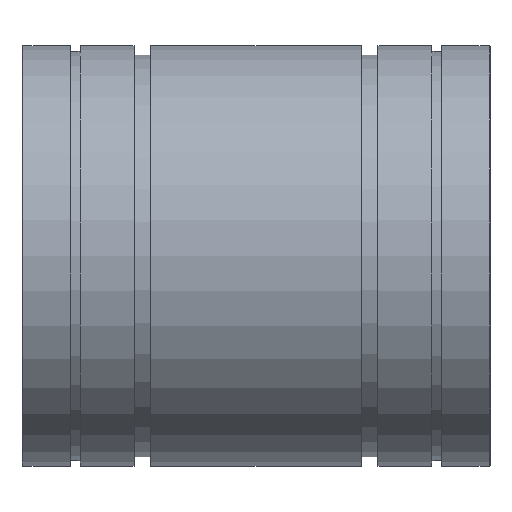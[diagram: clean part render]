
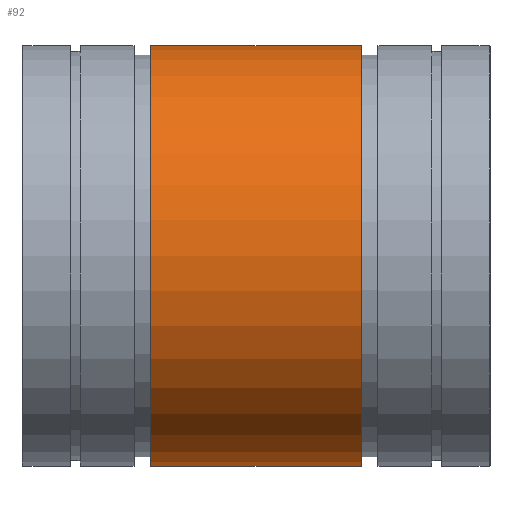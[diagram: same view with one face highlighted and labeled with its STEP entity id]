
A CAD part, top view. The second image highlights one B-rep face of the part: STEP entity #92.
In plain terms, the highlighted cylindrical face has radius 90 mm (diameter 180 mm), a partial arc.
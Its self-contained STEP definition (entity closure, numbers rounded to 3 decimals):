
#92=ADVANCED_FACE('',(#136),#137,.T.);
#136=FACE_OUTER_BOUND('',#188,.T.);
#137=CYLINDRICAL_SURFACE('',#189,90.0);
#188=EDGE_LOOP('',(#365,#366,#367,#368));
#189=AXIS2_PLACEMENT_3D('',#369,#370,#371);
#365=ORIENTED_EDGE('',*,*,#438,.F.);
#366=ORIENTED_EDGE('',*,*,#492,.F.);
#367=ORIENTED_EDGE('',*,*,#476,.F.);
#368=ORIENTED_EDGE('',*,*,#491,.T.);
#369=CARTESIAN_POINT('',(0.0,0.0,0.0));
#370=DIRECTION('',(1.0,-0.0,-0.0));
#371=DIRECTION('',(0.0,0.0,1.0));
#438=EDGE_CURVE('',#519,#521,#522,.F.);
#476=EDGE_CURVE('',#587,#589,#590,.T.);
#491=EDGE_CURVE('',#587,#521,#611,.T.);
#492=EDGE_CURVE('',#589,#519,#612,.T.);
#519=VERTEX_POINT('',#652);
#521=VERTEX_POINT('',#655);
#522=LINE('',#656,#657);
#587=VERTEX_POINT('',#778);
#589=VERTEX_POINT('',#781);
#590=LINE('',#782,#783);
#611=CIRCLE('',#811,90.0);
#612=CIRCLE('',#812,90.0);
#652=CARTESIAN_POINT('',(55.004,61.835,-65.395));
#655=CARTESIAN_POINT('',(144.996,61.835,-65.395));
#656=CARTESIAN_POINT('',(0.0,61.835,-65.395));
#657=VECTOR('',#829,1.0);
#778=CARTESIAN_POINT('',(144.996,-61.835,-65.395));
#781=CARTESIAN_POINT('',(55.004,-61.835,-65.395));
#782=CARTESIAN_POINT('',(0.0,-61.835,-65.395));
#783=VECTOR('',#876,1.0);
#811=AXIS2_PLACEMENT_3D('',#905,#906,#907);
#812=AXIS2_PLACEMENT_3D('',#908,#909,#910);
#829=DIRECTION('',(-1.0,0.0,0.0));
#876=DIRECTION('',(-1.0,0.0,0.0));
#905=CARTESIAN_POINT('',(144.996,0.0,0.0));
#906=DIRECTION('',(-1.0,0.0,0.0));
#907=DIRECTION('',(0.0,0.0,1.0));
#908=CARTESIAN_POINT('',(55.004,0.0,0.0));
#909=DIRECTION('',(-1.0,0.0,0.0));
#910=DIRECTION('',(0.0,0.0,1.0));
